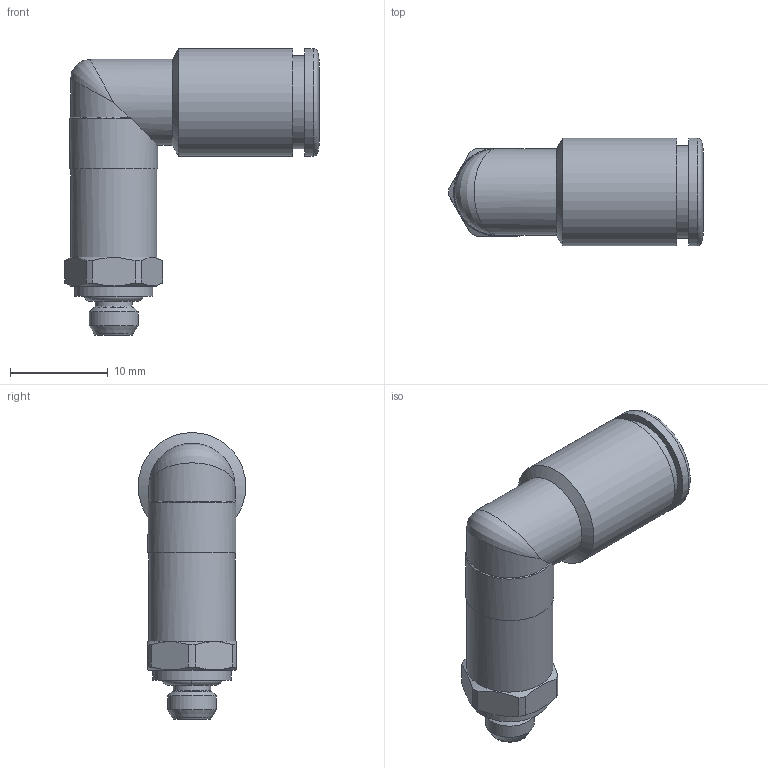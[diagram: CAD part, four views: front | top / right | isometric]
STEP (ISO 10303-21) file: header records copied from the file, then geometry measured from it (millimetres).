
FILE_DESCRIPTION(('Bauteilbeschreibung','HiCAD-Model','HiCAD-STEP-TRANSLATION','Bauteilbeschreibung'),'2;1');
FILE_NAME('B:/ABGLEICH/ZEICHNUNGEN/STEP FÜR INTERNET/STEP/IPSO 026/202615_IPSO_026_6_M5.STP','2012-02-20T10:46:39+00:00',('Konstrukteur'),('Konstrukteur Firma GmbH'),' HiCAD neXt 2008, Step 3.1.1401.2J ','HiCAD neXt 2008','confidential');
FILE_SCHEMA(('AUTOMOTIVE_DESIGN { 1 2 10303 214 0 1 1 1 }'));
Length unit declared in the file: millimetre
Products named in the file (7): A02615_IPSO_026_6_M5; OR 4X1_2; DR6_1_NEU; R202215_N2; A14611_N2; A146110N2; DIN 13_M5
Assembly tree (6 placements, depth 3):
  A02615_IPSO_026_6_M5
    OR 4X1_2
    DR6_1_NEU
    R202215_N2
    A14611_N2
    A146110N2
      DIN 13_M5
Bounding box: 26 x 11 x 29.3 mm (x, y, z)
Volume: 2151.3 mm3; surface area: 2953.3 mm2
Topology: 5 solids, 5 shells, 80 faces, 182 edges, 112 vertices
Faces by surface type: cylinder 30, cone 22, plane 20, torus 7, bspline 1
Full cylindrical faces by diameter (mm): 2.6 x1, 3.8 x1, 4 x1, 4.019 x2, 5 x1, 6.1 x1, 6.2 x1, 6.8 x2, 7.85 x1, 7.9 x1, 8 x1, 8.3 x1, 8.8 x2, 9 x2, 9.5 x1, 9.6 x1, 11 x2
Entity records: 3649 total; most frequent: CARTESIAN_POINT 1440, DIRECTION 360, ORIENTED_EDGE 234, AXIS2_PLACEMENT_3D 173, EDGE_LOOP 139, EDGE_CURVE 117, COLOUR_RGB 105, PRESENTATION_STYLE_ASSIGNMENT 105
